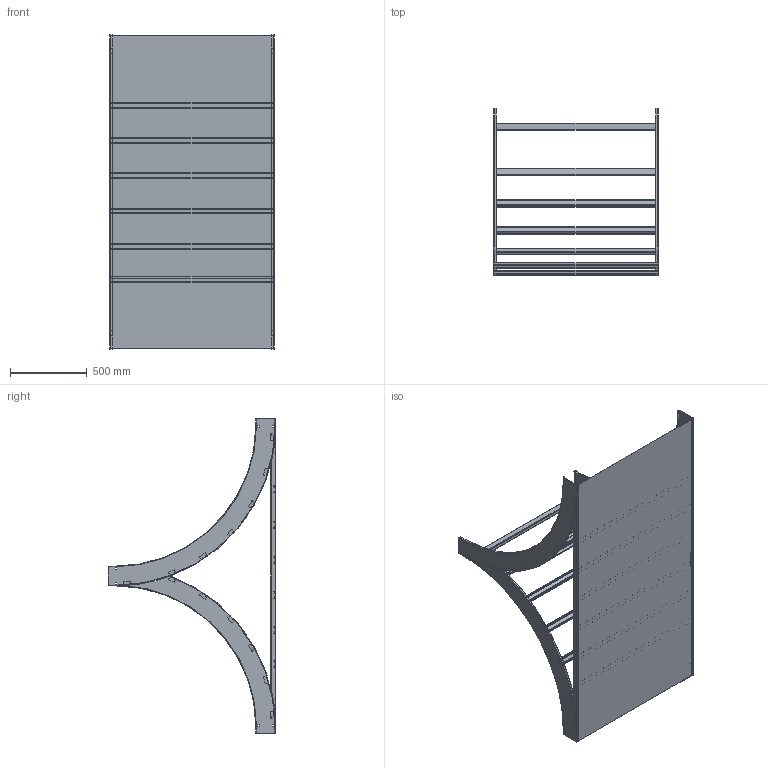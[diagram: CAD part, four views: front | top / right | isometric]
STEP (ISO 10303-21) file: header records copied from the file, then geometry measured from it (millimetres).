
FILE_DESCRIPTION((''),'2;1');
FILE_NAME('AUF542SVTU36_ASM','2010-01-27T',('erouzier'),(''),'PRO/ENGINEER BY PARAMETRIC TECHNOLOGY CORPORATION, 2008510','PRO/ENGINEER BY PARAMETRIC TECHNOLOGY CORPORATION, 2008510','');
FILE_SCHEMA(('CONFIG_CONTROL_DESIGN'));
Length unit declared in the file: inch
Products named in the file (8): CDS001417_5_90_36; CDS001417_5_90_36_AF2; CDS001417_5_90_36_AF3; CDS002159L42; CDS015036_5_42_36; CDS000495_GEN_AF6; CDS000495_GEN_AF7; AUF542SVTU36_ASM
Assembly tree (26 placements, depth 2):
  AUF542SVTU36_ASM
    CDS001417_5_90_36  x2
    CDS001417_5_90_36_AF2
    CDS001417_5_90_36_AF3
    CDS002159L42  x19
    CDS015036_5_42_36
    CDS000495_GEN_AF6
    CDS000495_GEN_AF7
Bounding box: 1073.15 x 1087.93 x 2045.77 mm (x, y, z)
Volume: 7445211.7 mm3; surface area: 11439333.8 mm2
Topology: 26 solids, 26 shells, 794 faces, 2120 edges, 1378 vertices
Faces by surface type: plane 521, cylinder 257, torus 16
Entity records: 6084 total; most frequent: CARTESIAN_POINT 1104, DIRECTION 1040, ORIENTED_EDGE 944, EDGE_CURVE 472, AXIS2_PLACEMENT_3D 348, VECTOR 344, LINE 344, VERTEX_POINT 290
